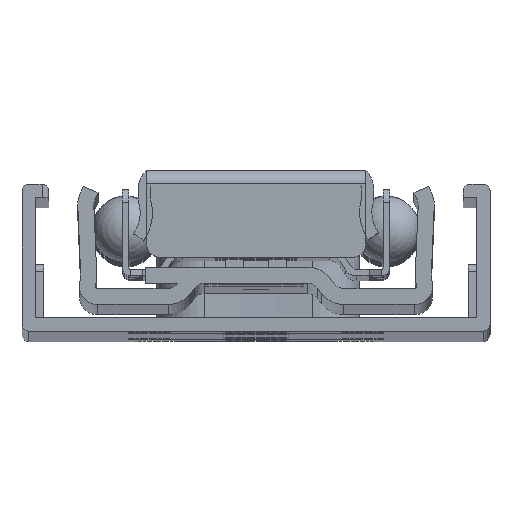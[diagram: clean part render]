
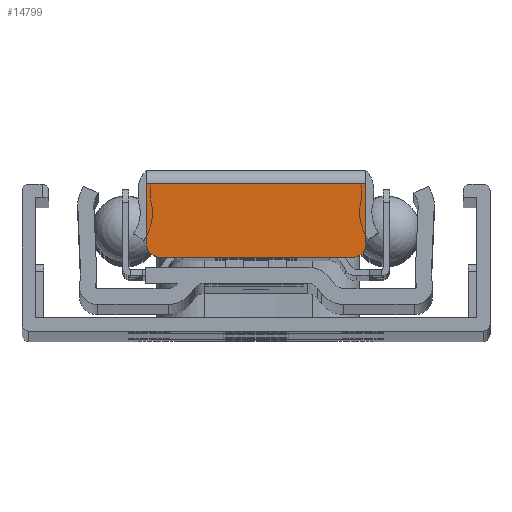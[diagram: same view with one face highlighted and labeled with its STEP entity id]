
A CAD part, top view. The second image highlights one B-rep face of the part: STEP entity #14799.
In plain terms, the highlighted planar face has unit normal (0, 0, 1).
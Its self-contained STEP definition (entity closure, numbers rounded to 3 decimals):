
#779=PLANE('',#16289);
#1511=FACE_OUTER_BOUND('',#2400,.T.);
#2400=EDGE_LOOP('',(#13630,#13631,#13632,#13633,#13634,#13635));
#3831=LINE('',#25274,#5266);
#3832=LINE('',#25277,#5267);
#3833=LINE('',#25281,#5268);
#3834=LINE('',#25284,#5269);
#5266=VECTOR('',#20551,10.);
#5267=VECTOR('',#20554,10.);
#5268=VECTOR('',#20557,10.);
#5269=VECTOR('',#20560,10.);
#5991=CIRCLE('',#16290,1.);
#5992=CIRCLE('',#16291,1.);
#7381=VERTEX_POINT('',#25270);
#7382=VERTEX_POINT('',#25272);
#7383=VERTEX_POINT('',#25276);
#7384=VERTEX_POINT('',#25278);
#7385=VERTEX_POINT('',#25280);
#7386=VERTEX_POINT('',#25282);
#9483=EDGE_CURVE('',#7382,#7381,#3831,.T.);
#9484=EDGE_CURVE('',#7382,#7383,#3832,.T.);
#9485=EDGE_CURVE('',#7384,#7383,#5991,.T.);
#9486=EDGE_CURVE('',#7384,#7385,#3833,.T.);
#9487=EDGE_CURVE('',#7386,#7385,#5992,.T.);
#9488=EDGE_CURVE('',#7381,#7386,#3834,.T.);
#13630=ORIENTED_EDGE('',*,*,#9483,.F.);
#13631=ORIENTED_EDGE('',*,*,#9484,.T.);
#13632=ORIENTED_EDGE('',*,*,#9485,.F.);
#13633=ORIENTED_EDGE('',*,*,#9486,.T.);
#13634=ORIENTED_EDGE('',*,*,#9487,.F.);
#13635=ORIENTED_EDGE('',*,*,#9488,.F.);
#14799=ADVANCED_FACE('',(#1511),#779,.T.);
#16289=AXIS2_PLACEMENT_3D('',#25275,#20552,#20553);
#16290=AXIS2_PLACEMENT_3D('',#25279,#20555,#20556);
#16291=AXIS2_PLACEMENT_3D('',#25283,#20558,#20559);
#20551=DIRECTION('',(-1.,0.,0.));
#20552=DIRECTION('center_axis',(0.,0.,1.));
#20553=DIRECTION('ref_axis',(1.,0.,0.));
#20554=DIRECTION('',(0.,1.,0.));
#20555=DIRECTION('center_axis',(0.,0.,-1.));
#20556=DIRECTION('ref_axis',(0.707,0.707,0.));
#20557=DIRECTION('',(-1.,0.,0.));
#20558=DIRECTION('center_axis',(0.,0.,-1.));
#20559=DIRECTION('ref_axis',(-0.707,0.707,0.));
#20560=DIRECTION('',(0.,1.,0.));
#25270=CARTESIAN_POINT('',(5.11,-4.766,449.));
#25272=CARTESIAN_POINT('',(21.512,-4.766,449.));
#25274=CARTESIAN_POINT('',(17.427,-4.766,449.));
#25275=CARTESIAN_POINT('Origin',(21.512,-5.766,449.));
#25276=CARTESIAN_POINT('',(21.512,-0.266,449.));
#25277=CARTESIAN_POINT('',(21.512,-5.766,449.));
#25278=CARTESIAN_POINT('',(20.512,0.734,449.));
#25279=CARTESIAN_POINT('Origin',(20.512,-0.266,449.));
#25280=CARTESIAN_POINT('',(6.11,0.734,449.));
#25281=CARTESIAN_POINT('',(21.512,0.734,449.));
#25282=CARTESIAN_POINT('',(5.11,-0.266,449.));
#25283=CARTESIAN_POINT('Origin',(6.11,-0.266,449.));
#25284=CARTESIAN_POINT('',(5.11,-5.766,449.));
